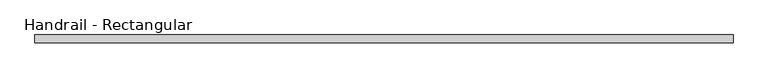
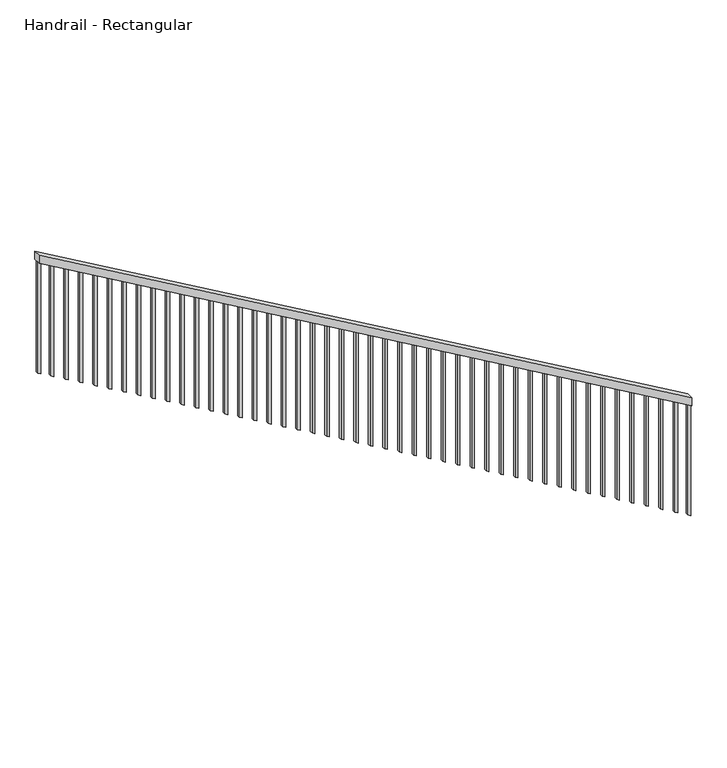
"""IFC4 building model written with IfcOpenShell, lengths in millimetres: railing geometry, Handrail - Rectangular."""

from ifc_helpers import new_model, si_unit, frame, origin, place, context, project, spatial, polyline, outline, extrude, source, transform, mapped, element, save


def handrail_rectangular_2b5fb350(model_context):
    return source(origin(), model_context, "Body", "SweptSolid", [
        extrude(outline(polyline([(3332.1512922, 49008.9536092), (3390.9, 49008.9536092), (6046.1432278, 44437.9019766), (5987.39452, 44437.9019766), (3332.1512922, 49008.9536092)])), frame((0.0, 6302.3929816, 0.0), z_axis=(0.0, 1.0, 0.0), x_axis=(0.0, 0.0, 1.0)), (0.0, 0.0, 1.0), 50.8),
        extrude(outline(polyline([(5923.3520859, 44548.0786092), (5934.4133762, 44529.0286092), (5111.5675218, 44529.0286092), (5100.5062315, 44548.0786092), (5923.3520859, 44548.0786092)])), frame((0.0, 6318.2679816, 0.0), z_axis=(0.0, 1.0, 0.0), x_axis=(0.0, 0.0, 1.0)), (0.0, 0.0, 1.0), 19.05),
        extrude(outline(polyline([(5864.3344388, 44649.6786092), (5875.3957292, 44630.6286092), (5052.5498748, 44630.6286092), (5041.4885845, 44649.6786092), (5864.3344388, 44649.6786092)])), frame((0.0, 6318.2679816, 0.0), z_axis=(0.0, 1.0, 0.0), x_axis=(0.0, 0.0, 1.0)), (0.0, 0.0, 1.0), 19.05),
        extrude(outline(polyline([(5805.3167918, 44751.2786092), (5816.3780821, 44732.2286092), (4993.5322277, 44732.2286092), (4982.4709374, 44751.2786092), (5805.3167918, 44751.2786092)])), frame((0.0, 6318.2679816, 0.0), z_axis=(0.0, 1.0, 0.0), x_axis=(0.0, 0.0, 1.0)), (0.0, 0.0, 1.0), 19.05),
        extrude(outline(polyline([(5746.2991447, 44852.8786092), (5757.3604351, 44833.8286092), (4934.5145807, 44833.8286092), (4923.4532903, 44852.8786092), (5746.2991447, 44852.8786092)])), frame((0.0, 6318.2679816, 0.0), z_axis=(0.0, 1.0, 0.0), x_axis=(0.0, 0.0, 1.0)), (0.0, 0.0, 1.0), 19.05),
        extrude(outline(polyline([(5687.2814977, 44954.4786092), (5698.342788, 44935.4286092), (4875.4969336, 44935.4286092), (4864.4356433, 44954.4786092), (5687.2814977, 44954.4786092)])), frame((0.0, 6318.2679816, 0.0), z_axis=(0.0, 1.0, 0.0), x_axis=(0.0, 0.0, 1.0)), (0.0, 0.0, 1.0), 19.05),
        extrude(outline(polyline([(5628.2638506, 45056.0786092), (5639.3251409, 45037.0286092), (4816.4792865, 45037.0286092), (4805.4179962, 45056.0786092), (5628.2638506, 45056.0786092)])), frame((0.0, 6318.2679816, 0.0), z_axis=(0.0, 1.0, 0.0), x_axis=(0.0, 0.0, 1.0)), (0.0, 0.0, 1.0), 19.05),
        extrude(outline(polyline([(5569.2462036, 45157.6786092), (5580.3074939, 45138.6286092), (4757.4616395, 45138.6286092), (4746.4003492, 45157.6786092), (5569.2462036, 45157.6786092)])), frame((0.0, 6318.2679816, 0.0), z_axis=(0.0, 1.0, 0.0), x_axis=(0.0, 0.0, 1.0)), (0.0, 0.0, 1.0), 19.05),
        extrude(outline(polyline([(5510.2285565, 45259.2786092), (5521.2898468, 45240.2286092), (4698.4439924, 45240.2286092), (4687.3827021, 45259.2786092), (5510.2285565, 45259.2786092)])), frame((0.0, 6318.2679816, 0.0), z_axis=(0.0, 1.0, 0.0), x_axis=(0.0, 0.0, 1.0)), (0.0, 0.0, 1.0), 19.05),
        extrude(outline(polyline([(5451.2109094, 45360.8786092), (5462.2721998, 45341.8286092), (4639.4263454, 45341.8286092), (4628.365055, 45360.8786092), (5451.2109094, 45360.8786092)])), frame((0.0, 6318.2679816, 0.0), z_axis=(0.0, 1.0, 0.0), x_axis=(0.0, 0.0, 1.0)), (0.0, 0.0, 1.0), 19.05),
        extrude(outline(polyline([(5392.1932624, 45462.4786092), (5403.2545527, 45443.4286092), (4580.4086983, 45443.4286092), (4569.347408, 45462.4786092), (5392.1932624, 45462.4786092)])), frame((0.0, 6318.2679816, 0.0), z_axis=(0.0, 1.0, 0.0), x_axis=(0.0, 0.0, 1.0)), (0.0, 0.0, 1.0), 19.05),
        extrude(outline(polyline([(5333.1756153, 45564.0786092), (5344.2369056, 45545.0286092), (4521.3910512, 45545.0286092), (4510.3297609, 45564.0786092), (5333.1756153, 45564.0786092)])), frame((0.0, 6318.2679816, 0.0), z_axis=(0.0, 1.0, 0.0), x_axis=(0.0, 0.0, 1.0)), (0.0, 0.0, 1.0), 19.05),
        extrude(outline(polyline([(5274.1579683, 45665.6786092), (5285.2192586, 45646.6286092), (4462.3734042, 45646.6286092), (4451.3121139, 45665.6786092), (5274.1579683, 45665.6786092)])), frame((0.0, 6318.2679816, 0.0), z_axis=(0.0, 1.0, 0.0), x_axis=(0.0, 0.0, 1.0)), (0.0, 0.0, 1.0), 19.05),
        extrude(outline(polyline([(5215.1403212, 45767.2786092), (5226.2016115, 45748.2286092), (4403.3557571, 45748.2286092), (4392.2944668, 45767.2786092), (5215.1403212, 45767.2786092)])), frame((0.0, 6318.2679816, 0.0), z_axis=(0.0, 1.0, 0.0), x_axis=(0.0, 0.0, 1.0)), (0.0, 0.0, 1.0), 19.05),
        extrude(outline(polyline([(5156.1226741, 45868.8786092), (5167.1839645, 45849.8286092), (4344.3381101, 45849.8286092), (4333.2768197, 45868.8786092), (5156.1226741, 45868.8786092)])), frame((0.0, 6318.2679816, 0.0), z_axis=(0.0, 1.0, 0.0), x_axis=(0.0, 0.0, 1.0)), (0.0, 0.0, 1.0), 19.05),
        extrude(outline(polyline([(5097.1050271, 45970.4786092), (5108.1663174, 45951.4286092), (4285.320463, 45951.4286092), (4274.2591727, 45970.4786092), (5097.1050271, 45970.4786092)])), frame((0.0, 6318.2679816, 0.0), z_axis=(0.0, 1.0, 0.0), x_axis=(0.0, 0.0, 1.0)), (0.0, 0.0, 1.0), 19.05),
        extrude(outline(polyline([(5038.08738, 46072.0786092), (5049.1486703, 46053.0286092), (4226.302816, 46053.0286092), (4215.2415256, 46072.0786092), (5038.08738, 46072.0786092)])), frame((0.0, 6318.2679816, 0.0), z_axis=(0.0, 1.0, 0.0), x_axis=(0.0, 0.0, 1.0)), (0.0, 0.0, 1.0), 19.05),
        extrude(outline(polyline([(4979.069733, 46173.6786092), (4990.1310233, 46154.6286092), (4167.2851689, 46154.6286092), (4156.2238786, 46173.6786092), (4979.069733, 46173.6786092)])), frame((0.0, 6318.2679816, 0.0), z_axis=(0.0, 1.0, 0.0), x_axis=(0.0, 0.0, 1.0)), (0.0, 0.0, 1.0), 19.05),
        extrude(outline(polyline([(4920.0520859, 46275.2786092), (4931.1133762, 46256.2286092), (4108.2675218, 46256.2286092), (4097.2062315, 46275.2786092), (4920.0520859, 46275.2786092)])), frame((0.0, 6318.2679816, 0.0), z_axis=(0.0, 1.0, 0.0), x_axis=(0.0, 0.0, 1.0)), (0.0, 0.0, 1.0), 19.05),
        extrude(outline(polyline([(4861.0344388, 46376.8786092), (4872.0957292, 46357.8286092), (4049.2498748, 46357.8286092), (4038.1885845, 46376.8786092), (4861.0344388, 46376.8786092)])), frame((0.0, 6318.2679816, 0.0), z_axis=(0.0, 1.0, 0.0), x_axis=(0.0, 0.0, 1.0)), (0.0, 0.0, 1.0), 19.05),
        extrude(outline(polyline([(4802.0167918, 46478.4786092), (4813.0780821, 46459.4286092), (3990.2322277, 46459.4286092), (3979.1709374, 46478.4786092), (4802.0167918, 46478.4786092)])), frame((0.0, 6318.2679816, 0.0), z_axis=(0.0, 1.0, 0.0), x_axis=(0.0, 0.0, 1.0)), (0.0, 0.0, 1.0), 19.05),
        extrude(outline(polyline([(4742.9991447, 46580.0786092), (4754.0604351, 46561.0286092), (3931.2145807, 46561.0286092), (3920.1532903, 46580.0786092), (4742.9991447, 46580.0786092)])), frame((0.0, 6318.2679816, 0.0), z_axis=(0.0, 1.0, 0.0), x_axis=(0.0, 0.0, 1.0)), (0.0, 0.0, 1.0), 19.05),
        extrude(outline(polyline([(4683.9814977, 46681.6786092), (4695.042788, 46662.6286092), (3872.1969336, 46662.6286092), (3861.1356433, 46681.6786092), (4683.9814977, 46681.6786092)])), frame((0.0, 6318.2679816, 0.0), z_axis=(0.0, 1.0, 0.0), x_axis=(0.0, 0.0, 1.0)), (0.0, 0.0, 1.0), 19.05),
        extrude(outline(polyline([(4624.9638506, 46783.2786092), (4636.0251409, 46764.2286092), (3813.1792865, 46764.2286092), (3802.1179962, 46783.2786092), (4624.9638506, 46783.2786092)])), frame((0.0, 6318.2679816, 0.0), z_axis=(0.0, 1.0, 0.0), x_axis=(0.0, 0.0, 1.0)), (0.0, 0.0, 1.0), 19.05),
        extrude(outline(polyline([(4565.9462036, 46884.8786092), (4577.0074939, 46865.8286092), (3754.1616395, 46865.8286092), (3743.1003492, 46884.8786092), (4565.9462036, 46884.8786092)])), frame((0.0, 6318.2679816, 0.0), z_axis=(0.0, 1.0, 0.0), x_axis=(0.0, 0.0, 1.0)), (0.0, 0.0, 1.0), 19.05),
        extrude(outline(polyline([(4506.9285565, 46986.4786092), (4517.9898468, 46967.4286092), (3695.1439924, 46967.4286092), (3684.0827021, 46986.4786092), (4506.9285565, 46986.4786092)])), frame((0.0, 6318.2679816, 0.0), z_axis=(0.0, 1.0, 0.0), x_axis=(0.0, 0.0, 1.0)), (0.0, 0.0, 1.0), 19.05),
        extrude(outline(polyline([(4447.9109094, 47088.0786092), (4458.9721998, 47069.0286092), (3636.1263454, 47069.0286092), (3625.065055, 47088.0786092), (4447.9109094, 47088.0786092)])), frame((0.0, 6318.2679816, 0.0), z_axis=(0.0, 1.0, 0.0), x_axis=(0.0, 0.0, 1.0)), (0.0, 0.0, 1.0), 19.05),
        extrude(outline(polyline([(4388.8932624, 47189.6786092), (4399.9545527, 47170.6286092), (3577.1086983, 47170.6286092), (3566.047408, 47189.6786092), (4388.8932624, 47189.6786092)])), frame((0.0, 6318.2679816, 0.0), z_axis=(0.0, 1.0, 0.0), x_axis=(0.0, 0.0, 1.0)), (0.0, 0.0, 1.0), 19.05),
        extrude(outline(polyline([(4329.8756153, 47291.2786092), (4340.9369056, 47272.2286092), (3518.0910512, 47272.2286092), (3507.0297609, 47291.2786092), (4329.8756153, 47291.2786092)])), frame((0.0, 6318.2679816, 0.0), z_axis=(0.0, 1.0, 0.0), x_axis=(0.0, 0.0, 1.0)), (0.0, 0.0, 1.0), 19.05),
        extrude(outline(polyline([(4270.8579683, 47392.8786092), (4281.9192586, 47373.8286092), (3459.0734042, 47373.8286092), (3448.0121139, 47392.8786092), (4270.8579683, 47392.8786092)])), frame((0.0, 6318.2679816, 0.0), z_axis=(0.0, 1.0, 0.0), x_axis=(0.0, 0.0, 1.0)), (0.0, 0.0, 1.0), 19.05),
        extrude(outline(polyline([(4211.8403212, 47494.4786092), (4222.9016115, 47475.4286092), (3400.0557571, 47475.4286092), (3388.9944668, 47494.4786092), (4211.8403212, 47494.4786092)])), frame((0.0, 6318.2679816, 0.0), z_axis=(0.0, 1.0, 0.0), x_axis=(0.0, 0.0, 1.0)), (0.0, 0.0, 1.0), 19.05),
        extrude(outline(polyline([(4152.8226741, 47596.0786092), (4163.8839645, 47577.0286092), (3341.0381101, 47577.0286092), (3329.9768197, 47596.0786092), (4152.8226741, 47596.0786092)])), frame((0.0, 6318.2679816, 0.0), z_axis=(0.0, 1.0, 0.0), x_axis=(0.0, 0.0, 1.0)), (0.0, 0.0, 1.0), 19.05),
        extrude(outline(polyline([(4093.8050271, 47697.6786092), (4104.8663174, 47678.6286092), (3282.020463, 47678.6286092), (3270.9591727, 47697.6786092), (4093.8050271, 47697.6786092)])), frame((0.0, 6318.2679816, 0.0), z_axis=(0.0, 1.0, 0.0), x_axis=(0.0, 0.0, 1.0)), (0.0, 0.0, 1.0), 19.05),
        extrude(outline(polyline([(4034.78738, 47799.2786092), (4045.8486703, 47780.2286092), (3223.002816, 47780.2286092), (3211.9415256, 47799.2786092), (4034.78738, 47799.2786092)])), frame((0.0, 6318.2679816, 0.0), z_axis=(0.0, 1.0, 0.0), x_axis=(0.0, 0.0, 1.0)), (0.0, 0.0, 1.0), 19.05),
        extrude(outline(polyline([(3975.769733, 47900.8786092), (3986.8310233, 47881.8286092), (3163.9851689, 47881.8286092), (3152.9238786, 47900.8786092), (3975.769733, 47900.8786092)])), frame((0.0, 6318.2679816, 0.0), z_axis=(0.0, 1.0, 0.0), x_axis=(0.0, 0.0, 1.0)), (0.0, 0.0, 1.0), 19.05),
        extrude(outline(polyline([(3916.7520859, 48002.4786092), (3927.8133762, 47983.4286092), (3104.9675218, 47983.4286092), (3093.9062315, 48002.4786092), (3916.7520859, 48002.4786092)])), frame((0.0, 6318.2679816, 0.0), z_axis=(0.0, 1.0, 0.0), x_axis=(0.0, 0.0, 1.0)), (0.0, 0.0, 1.0), 19.05),
        extrude(outline(polyline([(3857.7344388, 48104.0786092), (3868.7957292, 48085.0286092), (3045.9498748, 48085.0286092), (3034.8885845, 48104.0786092), (3857.7344388, 48104.0786092)])), frame((0.0, 6318.2679816, 0.0), z_axis=(0.0, 1.0, 0.0), x_axis=(0.0, 0.0, 1.0)), (0.0, 0.0, 1.0), 19.05),
        extrude(outline(polyline([(3798.7167918, 48205.6786092), (3809.7780821, 48186.6286092), (2986.9322277, 48186.6286092), (2975.8709374, 48205.6786092), (3798.7167918, 48205.6786092)])), frame((0.0, 6318.2679816, 0.0), z_axis=(0.0, 1.0, 0.0), x_axis=(0.0, 0.0, 1.0)), (0.0, 0.0, 1.0), 19.05),
        extrude(outline(polyline([(3739.6991447, 48307.2786092), (3750.7604351, 48288.2286092), (2927.9145807, 48288.2286092), (2916.8532903, 48307.2786092), (3739.6991447, 48307.2786092)])), frame((0.0, 6318.2679816, 0.0), z_axis=(0.0, 1.0, 0.0), x_axis=(0.0, 0.0, 1.0)), (0.0, 0.0, 1.0), 19.05),
        extrude(outline(polyline([(3680.6814977, 48408.8786092), (3691.742788, 48389.8286092), (2868.8969336, 48389.8286092), (2857.8356433, 48408.8786092), (3680.6814977, 48408.8786092)])), frame((0.0, 6318.2679816, 0.0), z_axis=(0.0, 1.0, 0.0), x_axis=(0.0, 0.0, 1.0)), (0.0, 0.0, 1.0), 19.05),
        extrude(outline(polyline([(3621.6638506, 48510.4786092), (3632.7251409, 48491.4286092), (2809.8792865, 48491.4286092), (2798.8179962, 48510.4786092), (3621.6638506, 48510.4786092)])), frame((0.0, 6318.2679816, 0.0), z_axis=(0.0, 1.0, 0.0), x_axis=(0.0, 0.0, 1.0)), (0.0, 0.0, 1.0), 19.05),
        extrude(outline(polyline([(3562.6462036, 48612.0786092), (3573.7074939, 48593.0286092), (2750.8616395, 48593.0286092), (2739.8003492, 48612.0786092), (3562.6462036, 48612.0786092)])), frame((0.0, 6318.2679816, 0.0), z_axis=(0.0, 1.0, 0.0), x_axis=(0.0, 0.0, 1.0)), (0.0, 0.0, 1.0), 19.05),
        extrude(outline(polyline([(3503.6285565, 48713.6786092), (3514.6898468, 48694.6286092), (2691.8439924, 48694.6286092), (2680.7827021, 48713.6786092), (3503.6285565, 48713.6786092)])), frame((0.0, 6318.2679816, 0.0), z_axis=(0.0, 1.0, 0.0), x_axis=(0.0, 0.0, 1.0)), (0.0, 0.0, 1.0), 19.05),
        extrude(outline(polyline([(3444.6109094, 48815.2786092), (3455.6721998, 48796.2286092), (2632.8263454, 48796.2286092), (2621.765055, 48815.2786092), (3444.6109094, 48815.2786092)])), frame((0.0, 6318.2679816, 0.0), z_axis=(0.0, 1.0, 0.0), x_axis=(0.0, 0.0, 1.0)), (0.0, 0.0, 1.0), 19.05),
        extrude(outline(polyline([(3385.5932624, 48916.8786092), (3396.6545527, 48897.8286092), (2573.8086983, 48897.8286092), (2562.747408, 48916.8786092), (3385.5932624, 48916.8786092)])), frame((0.0, 6318.2679816, 0.0), z_axis=(0.0, 1.0, 0.0), x_axis=(0.0, 0.0, 1.0)), (0.0, 0.0, 1.0), 19.05),
        extrude(outline(polyline([(5976.2859387, 44456.9519766), (5987.347229, 44437.9019766), (5164.5013746, 44437.9019766), (5153.4400843, 44456.9519766), (5976.2859387, 44456.9519766)])), frame((0.0, 6318.2679816, 0.0), z_axis=(0.0, 1.0, 0.0), x_axis=(0.0, 0.0, 1.0)), (0.0, 0.0, 1.0), 19.05),
        extrude(outline(polyline([(3332.1085197, 49008.9536092), (3343.1698101, 48989.9036092), (2520.3239557, 48989.9036092), (2509.2626653, 49008.9536092), (3332.1085197, 49008.9536092)])), frame((0.0, 6318.2679816, 0.0), z_axis=(0.0, 1.0, 0.0), x_axis=(0.0, 0.0, 1.0)), (0.0, 0.0, 1.0), 19.05),
    ])


if __name__ == "__main__":
    model = new_model("IFC4")
    model_context = context("Model", 3, world=origin())
    ifc_project = project(units=[si_unit("LENGTHUNIT", "METRE", prefix="MILLI")], contexts=[model_context])
    site = spatial("IfcSite", under=ifc_project)
    building = spatial("IfcBuilding", under=site)
    placement = place(None, origin())
    handrail_rectangular_shape = handrail_rectangular_2b5fb350(model_context)
    element("IfcRailing", 1, ObjectType="Handrail - Rectangular", at=placement, inside=building, context=model_context, shape_type="MappedRepresentation", body=[
        mapped(handrail_rectangular_shape, transform((0.0, 0.0, 0.0), x_axis=(1.0, 0.0, 0.0), y_axis=(0.0, 1.0, 0.0), z_axis=(0.0, 0.0, 1.0))),
    ])
    save(model, "model.ifc")
